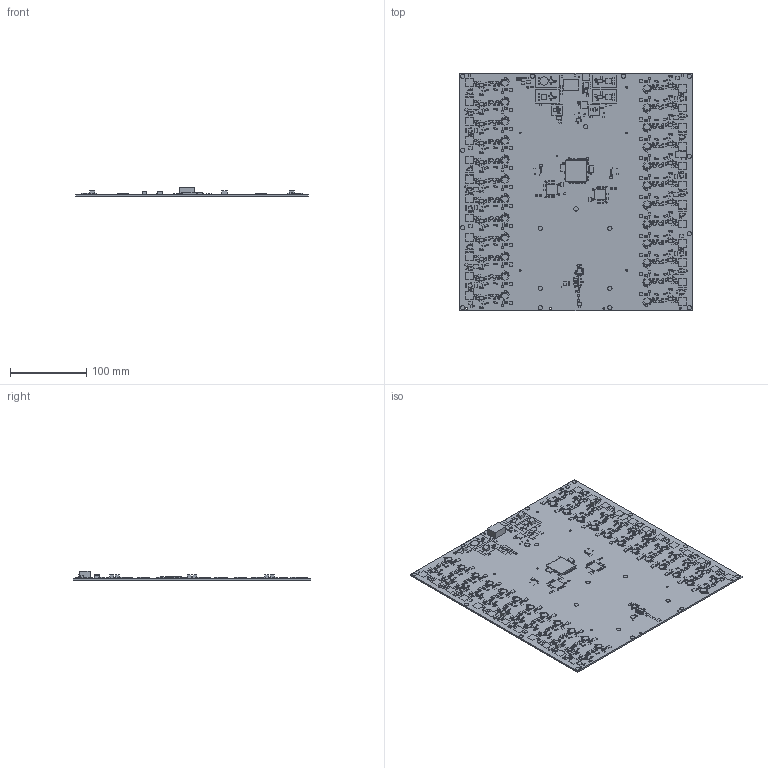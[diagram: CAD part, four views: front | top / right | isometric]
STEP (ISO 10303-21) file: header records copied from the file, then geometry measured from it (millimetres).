
FILE_DESCRIPTION(('STEP AP214'),'1');
FILE_NAME('radiant_v2.step','2020-10-28T17:38:37',(' '),(' '),'Spatial InterOp 3D','XD3DPlugin XRACreate',' ');
FILE_SCHEMA(('automotive_design'));
Length unit declared in the file: millimetre
Products named in the file (320): DesignRootModel; uid__9223372036854839175; Submodel-noModelForPart_CAPACITOR_LST_339021487; placementOutline; Submodel-CAPACITOR_LST_339021487_part_CAP1005L; Submodel-noModelForPart_RESISTOR_2928935223; Submodel-RESISTOR_2928935223_part_0402_MM; Submodel-noModelForPart_CAPACITOR_LST_2248492515; Submodel-CAPACITOR_LST_2248492515_part_CAP1005L; Submodel-noModelForPart_INDUCTOR_1402196824; Submodel-INDUCTOR_1402196824_part_0603; Submodel-noModelForPart_INDUCTOR-SMD2_3945363404; Submodel-INDUCTOR-SMD2_3945363404_part_IND2520L; Submodel-noModelForPart_RESISTOR_1402196824; Submodel-RESISTOR_1402196824_part_0603; Submodel-noModelForPart_INDUCTOR_2584229833; Submodel-INDUCTOR_2584229833_part_0805; Submodel-noModelForPart_FERRITE_445057724; Submodel-FERRITE_445057724_part_0402; Submodel-noModelForPart_HEADER02-1_3227289787; Submodel-HEADER02-1_3227289787_part_SIP-2PA; Submodel-noModelForPart_TPS54824RNVR_516933267; Submodel-TPS54824RNVR_516933267_part_RNV0018B; Submodel-noModelForPart_CAPACITOR_LST_2721307101; Submodel-CAPACITOR_LST_2721307101_part_CAP2012L; Submodel-noModelForPart_CAPACITOR_LST_2259518127; Submodel-CAPACITOR_LST_2259518127_part_CAP1608L; Submodel-noModelForPart_TESTPOINT_3849972906; Submodel-TESTPOINT_3849972906_part_TP35; Submodel-noModelForPart_CON-SIP-1P_1428151399; Submodel-CON-SIP-1P_1428151399_part_SIP-1P; Submodel-noModelForPart_SM_LED_2023835205; Submodel-SM_LED_2023835205_part_LED_0603; Submodel-noModelForPart_OSC_EN_1985301494; Submodel-OSC_EN_1985301494_part_4SMD_2X2P5; Submodel-noModelForPart_MTG_HOLE_827150755; Submodel-MTG_HOLE_827150755_part_MTHOLE-NUMBER-4; Submodel-noModelForPart_HEADER02_3227289787; Submodel-HEADER02_3227289787_part_SIP-2P; Submodel-noModelForPart_MM81302600RA2_4157936527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
Assembly tree (4159 placements, depth 5):
  ProductRootModel
    DesignRootModel
      uid__9223372036854839175
      Submodel-CAPACITOR_LST_339021487_part_CAP1005L  x732
        Submodel-noModelForPart_CAPACITOR_LST_339021487
          placementOutline
      Submodel-RESISTOR_2928935223_part_0402_MM  x889
        Submodel-noModelForPart_RESISTOR_2928935223
          placementOutline
      Submodel-CAPACITOR_LST_2248492515_part_CAP1005L  x717
        Submodel-noModelForPart_CAPACITOR_LST_2248492515
          placementOutline
      Submodel-INDUCTOR_1402196824_part_0603  x174
        Submodel-noModelForPart_INDUCTOR_1402196824
          placementOutline
      Submodel-INDUCTOR-SMD2_3945363404_part_IND2520L
        Submodel-noModelForPart_INDUCTOR-SMD2_3945363404
          placementOutline
      Submodel-RESISTOR_1402196824_part_0603  x44
        Submodel-noModelForPart_RESISTOR_1402196824
          placementOutline
      Submodel-INDUCTOR_2584229833_part_0805  x76
        Submodel-noModelForPart_INDUCTOR_2584229833
          placementOutline
      Submodel-FERRITE_445057724_part_0402  x6
        Submodel-noModelForPart_FERRITE_445057724
          placementOutline
      Submodel-HEADER02-1_3227289787_part_SIP-2PA
        Submodel-noModelForPart_HEADER02-1_3227289787
          placementOutline
      Submodel-TPS54824RNVR_516933267_part_RNV0018B  x2
        Submodel-noModelForPart_TPS54824RNVR_516933267
          placementOutline
      Submodel-CAPACITOR_LST_2721307101_part_CAP2012L  x10
        Submodel-noModelForPart_CAPACITOR_LST_2721307101
          placementOutline
      Submodel-CAPACITOR_LST_2259518127_part_CAP1608L  x114
        Submodel-noModelForPart_CAPACITOR_LST_2259518127
          placementOutline
      Submodel-TESTPOINT_3849972906_part_TP35  x125
        Submodel-noModelForPart_TESTPOINT_3849972906
          placementOutline
      Submodel-CON-SIP-1P_1428151399_part_SIP-1P  x2
        Submodel-noModelForPart_CON-SIP-1P_1428151399
          placementOutline
      Submodel-SM_LED_2023835205_part_LED_0603  x30
        Submodel-noModelForPart_SM_LED_2023835205
          placementOutline
      Submodel-OSC_EN_1985301494_part_4SMD_2X2P5
        Submodel-noModelForPart_OSC_EN_1985301494
          placementOutline
      Submodel-MTG_HOLE_827150755_part_MTHOLE-NUMBER-4  x18
        Submodel-noModelForPart_MTG_HOLE_827150755
          placementOutline
      Submodel-HEADER02_3227289787_part_SIP-2P
        Submodel-noModelForPart_HEADER02_3227289787
          placementOutline
      Submodel-MM81302600RA2_4157936527_part_MURATA_MM81302600RA2  x74
        Submodel-noModelForPart_MM81302600RA2_4157936527
          placementOutline
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Bounding box: 304.8 x 311.15 x 12.8 mm (x, y, z)
Volume: 203858.4 mm3; surface area: 246930.7 mm2
Topology: 3998 solids, 3998 shells, 23987 faces, 47973 edges, 31982 vertices
Faces by surface type: plane 23897, cylinder 90
Full cylindrical faces by diameter (mm): 0.254 x1, 0.283 x30, 0.3 x1, 0.4 x2, 0.447 x1, 0.635 x1, 1.016 x24, 2.5 x10, 5.588 x18, 10.92 x1
Entity records: 61885 total; most frequent: DIRECTION 11394, CARTESIAN_POINT 7193, AXIS2_PLACEMENT_3D 5077, PRODUCT_DEFINITION_SHAPE 4479, CONTEXT_DEPENDENT_SHAPE_REPRESENTATION 4159, ITEM_DEFINED_TRANSFORMATION 4159, NEXT_ASSEMBLY_USAGE_OCCURRENCE 4159, ORIENTED_EDGE 2580
